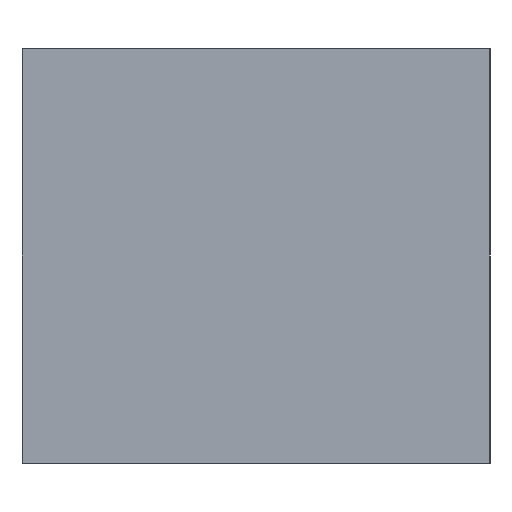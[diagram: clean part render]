
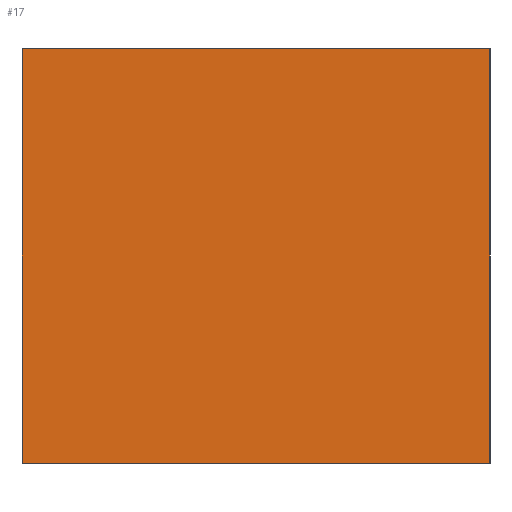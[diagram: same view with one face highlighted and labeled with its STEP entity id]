
A CAD part, left-side view. The second image highlights one B-rep face of the part: STEP entity #17.
In plain terms, the highlighted planar face has unit normal (-1, 0, 0).
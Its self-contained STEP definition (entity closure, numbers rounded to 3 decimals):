
#17 = ADVANCED_FACE('',(#18),#32,.F.);
#18 = FACE_BOUND('',#19,.F.);
#19 = EDGE_LOOP('',(#20,#55,#83,#111));
#20 = ORIENTED_EDGE('',*,*,#21,.F.);
#21 = EDGE_CURVE('',#22,#24,#26,.T.);
#22 = VERTEX_POINT('',#23);
#23 = CARTESIAN_POINT('',(25.5,26.06,-15.01));
#24 = VERTEX_POINT('',#25);
#25 = CARTESIAN_POINT('',(25.5,26.06,-14.301));
#26 = SURFACE_CURVE('',#27,(#31,#43),.PCURVE_S1.);
#27 = LINE('',#28,#29);
#28 = CARTESIAN_POINT('',(25.5,26.06,-15.01));
#29 = VECTOR('',#30,1.);
#30 = DIRECTION('',(0.,0.,1.));
#31 = PCURVE('',#32,#37);
#32 = PLANE('',#33);
#33 = AXIS2_PLACEMENT_3D('',#34,#35,#36);
#34 = CARTESIAN_POINT('',(25.5,26.06,-15.01));
#35 = DIRECTION('',(1.,0.,-0.));
#36 = DIRECTION('',(0.,0.,1.));
#37 = DEFINITIONAL_REPRESENTATION('',(#38),#42);
#38 = LINE('',#39,#40);
#39 = CARTESIAN_POINT('',(0.,0.));
#40 = VECTOR('',#41,1.);
#41 = DIRECTION('',(1.,0.));
#42 = ( GEOMETRIC_REPRESENTATION_CONTEXT(2) 
PARAMETRIC_REPRESENTATION_CONTEXT() REPRESENTATION_CONTEXT('2D SPACE',''
  ) );
#43 = PCURVE('',#44,#49);
#44 = PLANE('',#45);
#45 = AXIS2_PLACEMENT_3D('',#46,#47,#48);
#46 = CARTESIAN_POINT('',(25.5,26.06,-15.01));
#47 = DIRECTION('',(-0.,1.,0.));
#48 = DIRECTION('',(0.,0.,1.));
#49 = DEFINITIONAL_REPRESENTATION('',(#50),#54);
#50 = LINE('',#51,#52);
#51 = CARTESIAN_POINT('',(0.,0.));
#52 = VECTOR('',#53,1.);
#53 = DIRECTION('',(1.,0.));
#54 = ( GEOMETRIC_REPRESENTATION_CONTEXT(2) 
PARAMETRIC_REPRESENTATION_CONTEXT() REPRESENTATION_CONTEXT('2D SPACE',''
  ) );
#55 = ORIENTED_EDGE('',*,*,#56,.T.);
#56 = EDGE_CURVE('',#22,#57,#59,.T.);
#57 = VERTEX_POINT('',#58);
#58 = CARTESIAN_POINT('',(25.5,26.86,-15.01));
#59 = SURFACE_CURVE('',#60,(#64,#71),.PCURVE_S1.);
#60 = LINE('',#61,#62);
#61 = CARTESIAN_POINT('',(25.5,26.06,-15.01));
#62 = VECTOR('',#63,1.);
#63 = DIRECTION('',(-0.,1.,0.));
#64 = PCURVE('',#32,#65);
#65 = DEFINITIONAL_REPRESENTATION('',(#66),#70);
#66 = LINE('',#67,#68);
#67 = CARTESIAN_POINT('',(0.,0.));
#68 = VECTOR('',#69,1.);
#69 = DIRECTION('',(0.,-1.));
#70 = ( GEOMETRIC_REPRESENTATION_CONTEXT(2) 
PARAMETRIC_REPRESENTATION_CONTEXT() REPRESENTATION_CONTEXT('2D SPACE',''
  ) );
#71 = PCURVE('',#72,#77);
#72 = PLANE('',#73);
#73 = AXIS2_PLACEMENT_3D('',#74,#75,#76);
#74 = CARTESIAN_POINT('',(25.5,26.06,-15.01));
#75 = DIRECTION('',(0.,0.,1.));
#76 = DIRECTION('',(1.,0.,-0.));
#77 = DEFINITIONAL_REPRESENTATION('',(#78),#82);
#78 = LINE('',#79,#80);
#79 = CARTESIAN_POINT('',(0.,0.));
#80 = VECTOR('',#81,1.);
#81 = DIRECTION('',(0.,1.));
#82 = ( GEOMETRIC_REPRESENTATION_CONTEXT(2) 
PARAMETRIC_REPRESENTATION_CONTEXT() REPRESENTATION_CONTEXT('2D SPACE',''
  ) );
#83 = ORIENTED_EDGE('',*,*,#84,.T.);
#84 = EDGE_CURVE('',#57,#85,#87,.T.);
#85 = VERTEX_POINT('',#86);
#86 = CARTESIAN_POINT('',(25.5,26.86,-14.301));
#87 = SURFACE_CURVE('',#88,(#92,#99),.PCURVE_S1.);
#88 = LINE('',#89,#90);
#89 = CARTESIAN_POINT('',(25.5,26.86,-15.01));
#90 = VECTOR('',#91,1.);
#91 = DIRECTION('',(0.,0.,1.));
#92 = PCURVE('',#32,#93);
#93 = DEFINITIONAL_REPRESENTATION('',(#94),#98);
#94 = LINE('',#95,#96);
#95 = CARTESIAN_POINT('',(0.,-0.8));
#96 = VECTOR('',#97,1.);
#97 = DIRECTION('',(1.,0.));
#98 = ( GEOMETRIC_REPRESENTATION_CONTEXT(2) 
PARAMETRIC_REPRESENTATION_CONTEXT() REPRESENTATION_CONTEXT('2D SPACE',''
  ) );
#99 = PCURVE('',#100,#105);
#100 = PLANE('',#101);
#101 = AXIS2_PLACEMENT_3D('',#102,#103,#104);
#102 = CARTESIAN_POINT('',(25.5,26.86,-15.01));
#103 = DIRECTION('',(-0.,1.,0.));
#104 = DIRECTION('',(0.,0.,1.));
#105 = DEFINITIONAL_REPRESENTATION('',(#106),#110);
#106 = LINE('',#107,#108);
#107 = CARTESIAN_POINT('',(0.,0.));
#108 = VECTOR('',#109,1.);
#109 = DIRECTION('',(1.,0.));
#110 = ( GEOMETRIC_REPRESENTATION_CONTEXT(2) 
PARAMETRIC_REPRESENTATION_CONTEXT() REPRESENTATION_CONTEXT('2D SPACE',''
  ) );
#111 = ORIENTED_EDGE('',*,*,#112,.F.);
#112 = EDGE_CURVE('',#24,#85,#113,.T.);
#113 = SURFACE_CURVE('',#114,(#118,#125),.PCURVE_S1.);
#114 = LINE('',#115,#116);
#115 = CARTESIAN_POINT('',(25.5,26.06,-14.301));
#116 = VECTOR('',#117,1.);
#117 = DIRECTION('',(-0.,1.,0.));
#118 = PCURVE('',#32,#119);
#119 = DEFINITIONAL_REPRESENTATION('',(#120),#124);
#120 = LINE('',#121,#122);
#121 = CARTESIAN_POINT('',(0.709,0.));
#122 = VECTOR('',#123,1.);
#123 = DIRECTION('',(0.,-1.));
#124 = ( GEOMETRIC_REPRESENTATION_CONTEXT(2) 
PARAMETRIC_REPRESENTATION_CONTEXT() REPRESENTATION_CONTEXT('2D SPACE',''
  ) );
#125 = PCURVE('',#126,#131);
#126 = PLANE('',#127);
#127 = AXIS2_PLACEMENT_3D('',#128,#129,#130);
#128 = CARTESIAN_POINT('',(25.5,26.06,-14.301));
#129 = DIRECTION('',(0.,0.,1.));
#130 = DIRECTION('',(1.,0.,-0.));
#131 = DEFINITIONAL_REPRESENTATION('',(#132),#136);
#132 = LINE('',#133,#134);
#133 = CARTESIAN_POINT('',(0.,0.));
#134 = VECTOR('',#135,1.);
#135 = DIRECTION('',(0.,1.));
#136 = ( GEOMETRIC_REPRESENTATION_CONTEXT(2) 
PARAMETRIC_REPRESENTATION_CONTEXT() REPRESENTATION_CONTEXT('2D SPACE',''
  ) );
